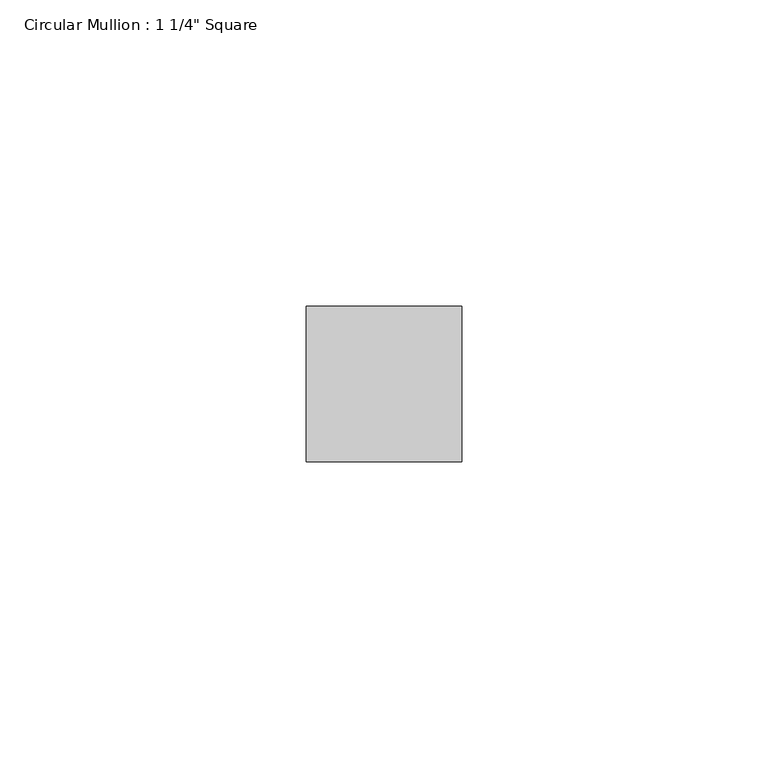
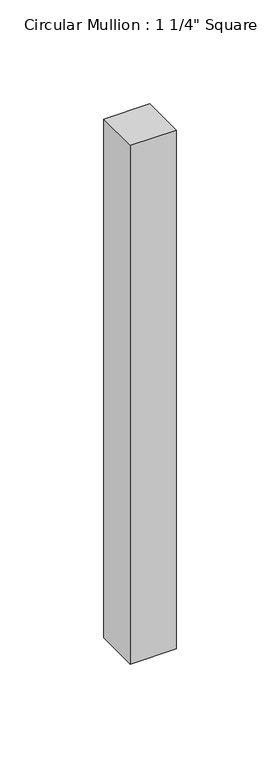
"""IFC4 building model written with IfcOpenShell, lengths in millimetres: member geometry."""

from ifc_helpers import new_model, si_unit, frame, origin, place, context, project, spatial, polyline, outline, extrude, source, transform, mapped, element, save


def member_5debf6c2(model_context):
    return source(origin(), model_context, "Body", "SweptSolid", [
        extrude(outline(polyline([(0.0, 12.7), (0.0, -12.7), (-25.4, -12.7), (-25.4, 12.7), (0.0, 12.7)])), frame((0.0, 0.0, -304.7999997), z_axis=(0.0, 0.0, 1.0), x_axis=(1.0, 0.0, 0.0)), (0.0, 0.0, 1.0), 304.7999997),
    ])


if __name__ == "__main__":
    model = new_model("IFC4")
    model_context = context("Model", 3, world=origin())
    ifc_project = project(units=[si_unit("LENGTHUNIT", "METRE", prefix="MILLI")], contexts=[model_context])
    site = spatial("IfcSite", under=ifc_project)
    building = spatial("IfcBuilding", under=site)
    placement = place(None, origin())
    member_shape = member_5debf6c2(model_context)
    element("IfcMember", 1, ObjectType="Circular Mullion : 1 1/4\" Square", at=placement, inside=building, context=model_context, shape_type="MappedRepresentation", body=[
        mapped(member_shape, transform((0.0, 0.0, 0.0), x_axis=(1.0, 0.0, 0.0), y_axis=(0.0, 1.0, 0.0), z_axis=(0.0, 0.0, 1.0))),
    ])
    save(model, "model.ifc")
